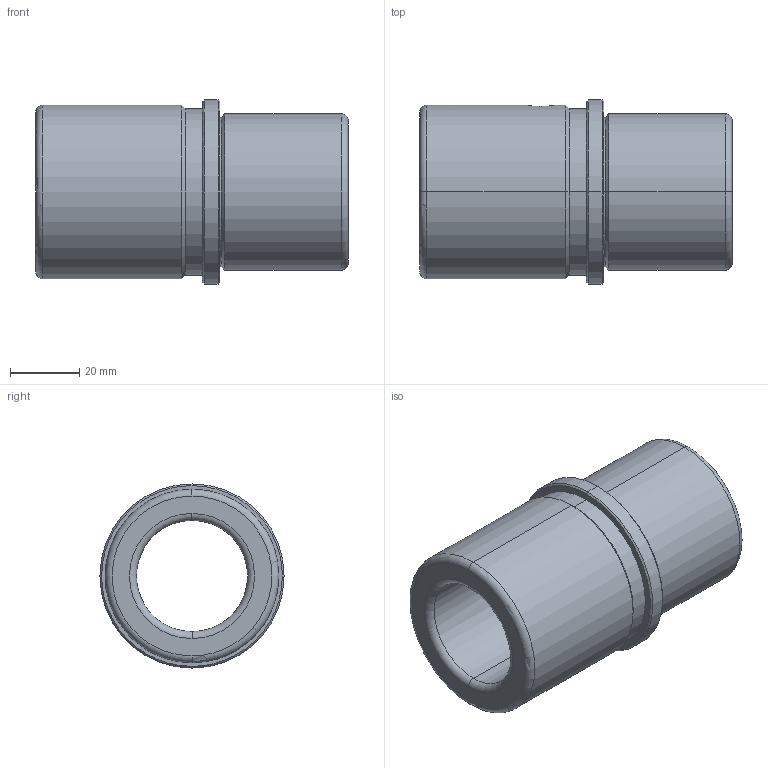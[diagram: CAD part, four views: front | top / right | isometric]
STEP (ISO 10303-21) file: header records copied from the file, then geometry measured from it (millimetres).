
FILE_DESCRIPTION(('CATIA V5 STEP Exchange'),'2;1');
FILE_NAME('C:\Users\Utente\Desktop\IO LAVORO\3D X SITO CF\X SITO\FAMO\FAMO-SF1-D32 x 90.stp','2021-01-06T17:05:58+00:00',('none'),('none'),'CATIA Version 5 Release 20 GA (IN-10)','CATIA V5 STEP AP203','none');
FILE_SCHEMA(('CONFIG_CONTROL_DESIGN'));
Length unit declared in the file: millimetre
Products named in the file (1): FAMO-SF1-D32 x 90
Bounding box: 90 x 53 x 53 mm (x, y, z)
Volume: 89528.8 mm3; surface area: 25625.3 mm2
Topology: 1 solids, 1 shells, 37 faces, 126 edges, 94 vertices
Faces by surface type: cylinder 14, cone 10, torus 8, plane 5
Entity records: 1643 total; most frequent: CARTESIAN_POINT 511, ORIENTED_EDGE 252, DIRECTION 180, EDGE_CURVE 126, AXIS2_PLACEMENT_3D 120, VERTEX_POINT 94, CIRCLE 82, EDGE_LOOP 44
